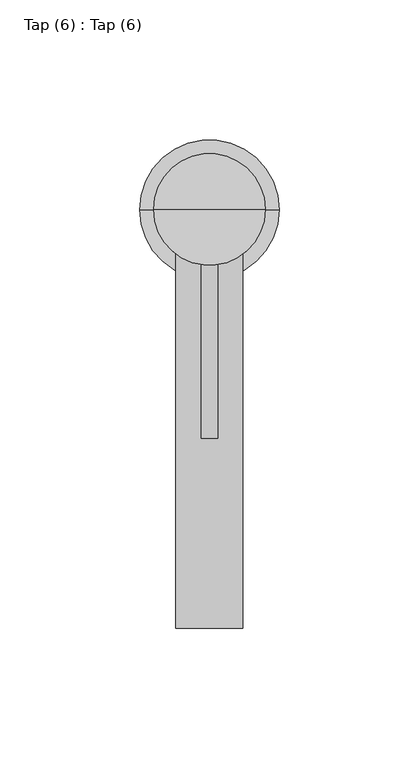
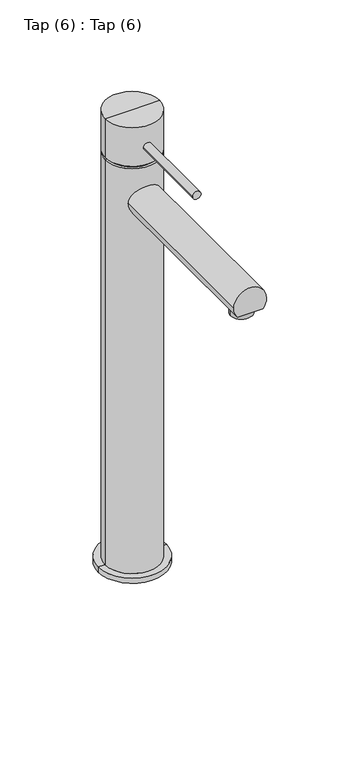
"""IFC4 building model written with IfcOpenShell, lengths in millimetres: flow terminal geometry, Tap (6) : Tap (6)."""

from ifc_helpers import new_model, si_unit, point, frame, frame_2d, origin, place, context, project, spatial, circle_curve, trimmed, segment, composite_curve, outline, extrude, source, transform, mapped, element, save
from ifc_brep_helpers import plane_surface, cylinder_surface, advanced_brep


def tap_6_tap_6_e625ee54(model_context):
    return source(origin(), model_context, "Body", "SolidModel", [
        advanced_brep(
        [(12.0, -150.0, 290.6419785), (-12.0, -150.0, 290.6419785), (-9.3914315, -150.0, 283.1719709), (9.3914315, -150.0, 283.1719709), (-12.0, 0.0, 290.6419785), (12.0, 0.0, 290.6419785), (9.3914315, -125.0, 283.1719709), (-9.3914315, -125.0, 283.1719709)],
        [
            (0, 1, circle_curve(frame((0.0, -150.0, 290.6419785), z_axis=(0.0, -1.0, 0.0), x_axis=(1.0, 0.0, 0.0)), 12.0)),
            (1, 2, circle_curve(frame((0.0, -150.0, 290.6419785), z_axis=(0.0, -1.0, 0.0), x_axis=(1.0, 0.0, 0.0)), 12.0)),
            (2, 3),
            (3, 0, circle_curve(frame((0.0, -150.0, 290.6419785), z_axis=(0.0, -1.0, 0.0), x_axis=(1.0, 0.0, 0.0)), 12.0)),
            (4, 5, circle_curve(frame((0.0, 0.0, 290.6419785), z_axis=(0.0, 1.0, 0.0), x_axis=(1.0, 0.0, 0.0)), 12.0)),
            (5, 4, circle_curve(frame((0.0, 0.0, 290.6419785), z_axis=(0.0, 1.0, 0.0), x_axis=(1.0, 0.0, 0.0)), 12.0)),
            (5, 0),
            (3, 6),
            (6, 7, circle_curve(frame((0.0, -125.0, 290.6419785), z_axis=(0.0, 1.0, 0.0), x_axis=(1.0, 0.0, 0.0)), 12.0)),
            (7, 2),
            (1, 4),
            (7, 6),
        ],
        [
            plane_surface(frame((12.0, -150.0, 290.6419785), z_axis=(0.0, -1.0, 0.0), x_axis=(0.0, 0.0, 1.0))),
            plane_surface(frame((12.0, 0.0, 290.6419785), z_axis=(0.0, 1.0, 0.0), x_axis=(0.0, 0.0, -1.0))),
            cylinder_surface(frame((0.0, 0.0, 290.6419785), z_axis=(0.0, -1.0, 0.0), x_axis=(1.0, 0.0, 0.0)), 12.0),
            plane_surface(frame((-15.4149683, -150.0, 283.1719709), z_axis=(0.0, 0.0, -1.0), x_axis=(1.0, 0.0, 0.0))),
            plane_surface(frame((-15.4149683, -125.0, 283.1719709), z_axis=(0.0, -1.0, 0.0), x_axis=(1.0, 0.0, 0.0))),
        ],
        [
            (0, [[1, 2, 3, 4]]),
            (1, [[5, 6]]),
            (2, [[-6, 7, -4, 8, 9, 10, -2, 11]]),
            (2, [[-1, -7, -5, -11]]),
            (3, [[12, -8, -3, -10]]),
            (4, [[-12, -9]]),
        ],
    ),
        extrude(outline(composite_curve([segment(trimmed(circle_curve(frame_2d((333.2676852, 0.0)), 3.0), [point((333.2676852, -3.0))], [point((333.2676852, 3.0))], False, "CARTESIAN"), True, "CONTINUOUS"), segment(trimmed(circle_curve(frame_2d((333.2676852, 0.0)), 3.0), [point((333.2676852, 3.0))], [point((333.2676852, -3.0))], False, "CARTESIAN"), True, "CONTINUOUS")], self_intersect=False)), frame((0.0, -82.0430665, 0.0), z_axis=(0.0, 1.0, 0.0), x_axis=(0.0, 0.0, 1.0)), (0.0, 0.0, 1.0), 82.0430665),
        advanced_brep(
        [(0.0, 0.0, 0.0), (-25.0, 0.0, 0.0), (25.0, 0.0, 0.0), (20.0, 0.0, 350.0), (-20.0, 0.0, 350.0), (0.0, 0.0, 350.0), (20.0, 0.0, 320.0), (-20.0, 0.0, 320.0), (18.0, 0.0, 320.0), (-18.0, 0.0, 320.0), (18.0, 0.0, 318.0), (-18.0, 0.0, 318.0), (20.0, 0.0, 318.0), (-20.0, 0.0, 318.0), (20.0, 0.0, 4.0), (-20.0, 0.0, 4.0), (25.0, 0.0, 4.0), (-25.0, 0.0, 4.0)],
        [
            (0, 1),
            (1, 2, circle_curve(frame((0.0, 0.0, 0.0), z_axis=(0.0, 0.0, -1.0), x_axis=(-1.0, 0.0, 0.0)), 25.0)),
            (2, 0),
            (2, 1, circle_curve(frame((0.0, 0.0, 0.0), z_axis=(0.0, 0.0, -1.0), x_axis=(-1.0, 0.0, 0.0)), 25.0)),
            (3, 4, circle_curve(frame((0.0, 0.0, 350.0), z_axis=(0.0, 0.0, 1.0), x_axis=(-1.0, 0.0, 0.0)), 20.0)),
            (4, 5),
            (5, 3),
            (4, 3, circle_curve(frame((0.0, 0.0, 350.0), z_axis=(0.0, 0.0, 1.0), x_axis=(-1.0, 0.0, 0.0)), 20.0)),
            (3, 6),
            (6, 7, circle_curve(frame((0.0, 0.0, 320.0), z_axis=(0.0, 0.0, 1.0), x_axis=(-1.0, 0.0, 0.0)), 20.0)),
            (7, 4),
            (7, 6, circle_curve(frame((0.0, 0.0, 320.0), z_axis=(0.0, 0.0, 1.0), x_axis=(-1.0, 0.0, 0.0)), 20.0)),
            (6, 8),
            (8, 9, circle_curve(frame((0.0, 0.0, 320.0), z_axis=(0.0, 0.0, 1.0), x_axis=(-1.0, 0.0, 0.0)), 18.0)),
            (9, 7),
            (9, 8, circle_curve(frame((0.0, 0.0, 320.0), z_axis=(0.0, 0.0, 1.0), x_axis=(-1.0, 0.0, 0.0)), 18.0)),
            (8, 10),
            (10, 11, circle_curve(frame((0.0, 0.0, 318.0), z_axis=(0.0, 0.0, 1.0), x_axis=(-1.0, 0.0, 0.0)), 18.0)),
            (11, 9),
            (11, 10, circle_curve(frame((0.0, 0.0, 318.0), z_axis=(0.0, 0.0, 1.0), x_axis=(-1.0, 0.0, 0.0)), 18.0)),
            (10, 12),
            (12, 13, circle_curve(frame((0.0, 0.0, 318.0), z_axis=(0.0, 0.0, 1.0), x_axis=(-1.0, 0.0, 0.0)), 20.0)),
            (13, 11),
            (13, 12, circle_curve(frame((0.0, 0.0, 318.0), z_axis=(0.0, 0.0, 1.0), x_axis=(-1.0, 0.0, 0.0)), 20.0)),
            (12, 14),
            (14, 15, circle_curve(frame((0.0, 0.0, 4.0), z_axis=(0.0, 0.0, 1.0), x_axis=(-1.0, 0.0, 0.0)), 20.0)),
            (15, 13),
            (15, 14, circle_curve(frame((0.0, 0.0, 4.0), z_axis=(0.0, 0.0, 1.0), x_axis=(-1.0, 0.0, 0.0)), 20.0)),
            (14, 16),
            (16, 17, circle_curve(frame((0.0, 0.0, 4.0), z_axis=(0.0, 0.0, 1.0), x_axis=(-1.0, 0.0, 0.0)), 25.0)),
            (17, 15),
            (17, 16, circle_curve(frame((0.0, 0.0, 4.0), z_axis=(0.0, 0.0, 1.0), x_axis=(-1.0, 0.0, 0.0)), 25.0)),
            (1, 17),
            (16, 2),
        ],
        [
            plane_surface(frame((0.0, 0.0, 0.0), z_axis=(0.0, 0.0, -1.0), x_axis=(-1.0, 0.0, 0.0))),
            plane_surface(frame((0.0, 0.0, 350.0), z_axis=(0.0, 0.0, 1.0), x_axis=(-1.0, 0.0, 0.0))),
            cylinder_surface(frame((0.0, 0.0, -25.0), z_axis=(0.0, 0.0, -1.0), x_axis=(-1.0, 0.0, 0.0)), 20.0),
            plane_surface(frame((0.0, 0.0, 320.0), z_axis=(0.0, 0.0, -1.0), x_axis=(-1.0, 0.0, 0.0))),
            cylinder_surface(frame((0.0, 0.0, -25.0), z_axis=(0.0, 0.0, -1.0), x_axis=(-1.0, 0.0, 0.0)), 18.0),
            plane_surface(frame((0.0, 0.0, 318.0), z_axis=(0.0, 0.0, 1.0), x_axis=(-1.0, 0.0, 0.0))),
            plane_surface(frame((0.0, 0.0, 4.0), z_axis=(0.0, 0.0, 1.0), x_axis=(-1.0, 0.0, 0.0))),
            cylinder_surface(frame((0.0, 0.0, -25.0), z_axis=(0.0, 0.0, -1.0), x_axis=(-1.0, 0.0, 0.0)), 25.0),
        ],
        [
            (0, [[1, 2, 3]]),
            (0, [[-1, -3, 4]]),
            (1, [[5, 6, 7]]),
            (1, [[-6, 8, -7]]),
            (2, [[-5, 9, 10, 11]]),
            (2, [[-8, -11, 12, -9]]),
            (3, [[-10, 13, 14, 15]]),
            (3, [[-12, -15, 16, -13]]),
            (4, [[-14, 17, 18, 19]]),
            (4, [[-16, -19, 20, -17]]),
            (5, [[-18, 21, 22, 23]]),
            (5, [[-20, -23, 24, -21]]),
            (2, [[-22, 25, 26, 27]]),
            (2, [[-24, -27, 28, -25]]),
            (6, [[-26, 29, 30, 31]]),
            (6, [[-28, -31, 32, -29]]),
            (7, [[-2, 33, -30, 34]]),
            (7, [[-4, -34, -32, -33]]),
        ],
    ),
        advanced_brep(
        [(-8.0, -138.7213883, 283.1719709), (8.0, -138.7213883, 283.1719709), (-8.0, -138.7213883, 277.0717002), (8.0, -138.7213883, 277.0717002)],
        [
            (0, 1, circle_curve(frame((0.0, -138.7213883, 283.1719709), z_axis=(0.0, 0.0, 1.0), x_axis=(1.0, 0.0, 0.0)), 8.0)),
            (1, 0, circle_curve(frame((0.0, -138.7213883, 283.1719709), z_axis=(0.0, 0.0, 1.0), x_axis=(1.0, 0.0, 0.0)), 8.0)),
            (2, 3, circle_curve(frame((0.0, -138.7213883, 277.0717002), z_axis=(0.0, 0.0, -1.0), x_axis=(1.0, 0.0, 0.0)), 8.0)),
            (3, 2, circle_curve(frame((0.0, -138.7213883, 277.0717002), z_axis=(0.0, 0.0, -1.0), x_axis=(1.0, 0.0, 0.0)), 8.0)),
            (0, 2),
            (3, 1),
        ],
        [
            plane_surface(frame((8.0, -138.7213883, 283.1719709), z_axis=(0.0, 0.0, 1.0), x_axis=(0.0, 1.0, 0.0))),
            plane_surface(frame((8.0, -138.7213883, 277.0717002), z_axis=(0.0, 0.0, -1.0), x_axis=(0.0, -1.0, 0.0))),
            cylinder_surface(frame((0.0, -138.7213883, 277.0717002), z_axis=(0.0, 0.0, 1.0), x_axis=(1.0, 0.0, 0.0)), 8.0),
        ],
        [
            (0, [[1, 2]]),
            (1, [[3, 4]]),
            (2, [[-1, 5, -4, 6]]),
            (2, [[-2, -6, -3, -5]]),
        ],
    ),
    ])


if __name__ == "__main__":
    model = new_model("IFC4")
    model_context = context("Model", 3, world=origin())
    ifc_project = project(units=[si_unit("LENGTHUNIT", "METRE", prefix="MILLI")], contexts=[model_context])
    site = spatial("IfcSite", under=ifc_project)
    building = spatial("IfcBuilding", under=site)
    placement = place(None, origin())
    tap_6_tap_6_shape = tap_6_tap_6_e625ee54(model_context)
    element("IfcFlowTerminal", 1, ObjectType="Tap (6) : Tap (6)", at=placement, inside=building, context=model_context, shape_type="MappedRepresentation", body=[
        mapped(tap_6_tap_6_shape, transform((0.0, 0.0, 0.0), x_axis=(1.0, 0.0, 0.0), y_axis=(0.0, 1.0, 0.0), z_axis=(0.0, 0.0, 1.0))),
    ])
    save(model, "model.ifc")
